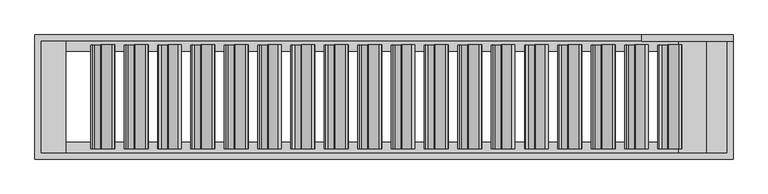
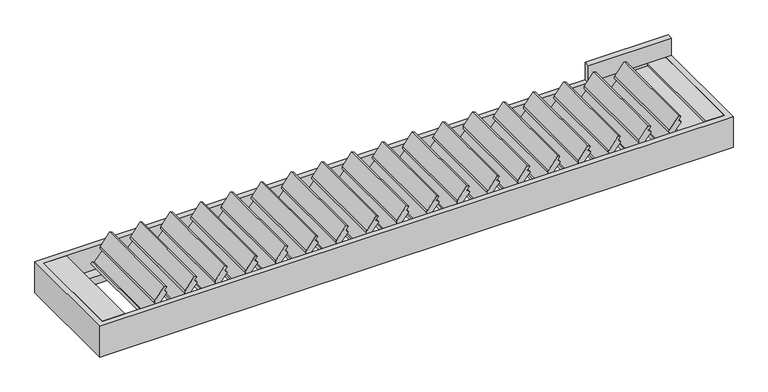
"""IFC4 building model written with IfcOpenShell, lengths in millimetres: proxy geometry, Renson_Aero_Patio covers : Aero - Single."""

from ifc_helpers import new_model, si_unit, point, frame, frame_2d, origin, origin_with_axes, place, context, project, spatial, polyline, circle_curve, trimmed, segment, composite_curve, outline, extrude, faceted_brep, source, transform, mapped, element, save


def generic_models_9f0a1203(model_context):
    return source(origin(), model_context, "Body", "SolidModel", [
        extrude(outline(composite_curve([segment(polyline([(38.6941425, 1704.2933937), (58.328832, 1684.6587041), (81.3082125, 1702.1326311), (91.2056128, 1684.9898308), (3.54674, 1618.332475)]), True, "CONTINUOUS"), segment(trimmed(circle_curve(frame_2d((-5.5326698, 1630.272505)), 15.0), [point((3.54674, 1618.332475))], [point((-15.174484, 1618.7818384))], False, "CARTESIAN"), True, "CONTINUOUS"), segment(polyline([(-15.174484, 1618.7818384), (-30.1324311, 1631.3330463), (-97.3419348, 1574.9375765), (-88.6707887, 1559.918711), (-100.8453082, 1550.6609913), (-120.7163908, 1570.532074), (38.6941425, 1704.2933937)]), True, "CONTINUOUS")], self_intersect=False)), frame((0.0, -335.0, 0.0), z_axis=(0.0, 1.0, 0.0), x_axis=(0.0, 0.0, 1.0)), (0.0, 0.0, 1.0), 670.0),
        extrude(outline(composite_curve([segment(polyline([(38.6941425, 1489.2832245), (58.328832, 1469.6485349), (81.3082125, 1487.1224619), (91.2056128, 1469.9796616), (3.54674, 1403.3223058)]), True, "CONTINUOUS"), segment(trimmed(circle_curve(frame_2d((-5.5326698, 1415.2623358)), 15.0), [point((3.54674, 1403.3223058))], [point((-15.174484, 1403.7716691))], False, "CARTESIAN"), True, "CONTINUOUS"), segment(polyline([(-15.174484, 1403.7716691), (-30.1324311, 1416.3228771), (-97.3419348, 1359.9274073), (-88.6707887, 1344.9085418), (-100.8453082, 1335.6508221), (-120.7163908, 1355.5219048), (38.6941425, 1489.2832245)]), True, "CONTINUOUS")], self_intersect=False)), frame((0.0, -335.0, 0.0), z_axis=(0.0, 1.0, 0.0), x_axis=(0.0, 0.0, 1.0)), (0.0, 0.0, 1.0), 670.0),
        extrude(outline(composite_curve([segment(polyline([(38.6941425, 1274.2730553), (58.328832, 1254.6383657), (81.3082125, 1272.1122927), (91.2056128, 1254.9694924), (3.54674, 1188.3121365)]), True, "CONTINUOUS"), segment(trimmed(circle_curve(frame_2d((-5.5326698, 1200.2521666)), 15.0), [point((3.54674, 1188.3121365))], [point((-15.174484, 1188.7614999))], False, "CARTESIAN"), True, "CONTINUOUS"), segment(polyline([(-15.174484, 1188.7614999), (-30.1324311, 1201.3127079), (-97.3419348, 1144.9172381), (-88.6707887, 1129.8983726), (-100.8453082, 1120.6406529), (-120.7163908, 1140.5117356), (38.6941425, 1274.2730553)]), True, "CONTINUOUS")], self_intersect=False)), frame((0.0, -335.0, 0.0), z_axis=(0.0, 1.0, 0.0), x_axis=(0.0, 0.0, 1.0)), (0.0, 0.0, 1.0), 670.0),
        extrude(outline(composite_curve([segment(polyline([(38.6941425, 1059.2628861), (58.328832, 1039.6281965), (81.3082125, 1057.1021235), (91.2056128, 1039.9593232), (3.54674, 973.3019673)]), True, "CONTINUOUS"), segment(trimmed(circle_curve(frame_2d((-5.5326698, 985.2419974)), 15.0), [point((3.54674, 973.3019673))], [point((-15.174484, 973.7513307))], False, "CARTESIAN"), True, "CONTINUOUS"), segment(polyline([(-15.174484, 973.7513307), (-30.1324311, 986.3025387), (-97.3419348, 929.9070689), (-88.6707887, 914.8882034), (-100.8453082, 905.6304837), (-120.7163908, 925.5015664), (38.6941425, 1059.2628861)]), True, "CONTINUOUS")], self_intersect=False)), frame((0.0, -335.0, 0.0), z_axis=(0.0, 1.0, 0.0), x_axis=(0.0, 0.0, 1.0)), (0.0, 0.0, 1.0), 670.0),
        extrude(outline(composite_curve([segment(polyline([(38.6941425, 844.2527169), (58.328832, 824.6180273), (81.3082125, 842.0919543), (91.2056128, 824.949154), (3.54674, 758.2917981)]), True, "CONTINUOUS"), segment(trimmed(circle_curve(frame_2d((-5.5326698, 770.2318282)), 15.0), [point((3.54674, 758.2917981))], [point((-15.174484, 758.7411615))], False, "CARTESIAN"), True, "CONTINUOUS"), segment(polyline([(-15.174484, 758.7411615), (-30.1324311, 771.2923694), (-97.3419348, 714.8968997), (-88.6707887, 699.8780342), (-100.8453082, 690.6203145), (-120.7163908, 710.4913972), (38.6941425, 844.2527169)]), True, "CONTINUOUS")], self_intersect=False)), frame((0.0, -335.0, 0.0), z_axis=(0.0, 1.0, 0.0), x_axis=(0.0, 0.0, 1.0)), (0.0, 0.0, 1.0), 670.0),
        extrude(outline(composite_curve([segment(polyline([(38.6941425, 629.2425476), (58.328832, 609.6078581), (81.3082125, 627.0817851), (91.2056128, 609.9389848), (3.54674, 543.2816289)]), True, "CONTINUOUS"), segment(trimmed(circle_curve(frame_2d((-5.5326698, 555.221659)), 15.0), [point((3.54674, 543.2816289))], [point((-15.174484, 543.7309923))], False, "CARTESIAN"), True, "CONTINUOUS"), segment(polyline([(-15.174484, 543.7309923), (-30.1324311, 556.2822002), (-97.3419348, 499.8867305), (-88.6707887, 484.867865), (-100.8453082, 475.6101453), (-120.7163908, 495.481228), (38.6941425, 629.2425476)]), True, "CONTINUOUS")], self_intersect=False)), frame((0.0, -335.0, 0.0), z_axis=(0.0, 1.0, 0.0), x_axis=(0.0, 0.0, 1.0)), (0.0, 0.0, 1.0), 670.0),
        extrude(outline(composite_curve([segment(polyline([(38.6941425, 414.2323784), (58.328832, 394.5976889), (81.3082125, 412.0716159), (91.2056128, 394.9288156), (3.54674, 328.2714597)]), True, "CONTINUOUS"), segment(trimmed(circle_curve(frame_2d((-5.5326698, 340.2114898)), 15.0), [point((3.54674, 328.2714597))], [point((-15.174484, 328.7208231))], False, "CARTESIAN"), True, "CONTINUOUS"), segment(polyline([(-15.174484, 328.7208231), (-30.1324311, 341.272031), (-97.3419348, 284.8765613), (-88.6707887, 269.8576958), (-100.8453082, 260.5999761), (-120.7163908, 280.4710587), (38.6941425, 414.2323784)]), True, "CONTINUOUS")], self_intersect=False)), frame((0.0, -335.0, 0.0), z_axis=(0.0, 1.0, 0.0), x_axis=(0.0, 0.0, 1.0)), (0.0, 0.0, 1.0), 670.0),
        extrude(outline(composite_curve([segment(polyline([(38.6941425, 199.2222092), (58.328832, 179.5875197), (81.3082125, 197.0614467), (91.2056128, 179.9186464), (3.54674, 113.2612905)]), True, "CONTINUOUS"), segment(trimmed(circle_curve(frame_2d((-5.5326698, 125.2013206)), 15.0), [point((3.54674, 113.2612905))], [point((-15.174484, 113.7106539))], False, "CARTESIAN"), True, "CONTINUOUS"), segment(polyline([(-15.174484, 113.7106539), (-30.1324311, 126.2618618), (-97.3419348, 69.8663921), (-88.6707887, 54.8475266), (-100.8453082, 45.5898069), (-120.7163908, 65.4608895), (38.6941425, 199.2222092)]), True, "CONTINUOUS")], self_intersect=False)), frame((0.0, -335.0, 0.0), z_axis=(0.0, 1.0, 0.0), x_axis=(0.0, 0.0, 1.0)), (0.0, 0.0, 1.0), 670.0),
        extrude(outline(composite_curve([segment(polyline([(38.6941425, -15.78796), (58.328832, -35.4226495), (81.3082125, -17.9487226), (91.2056128, -35.0915229), (3.54674, -101.7488787)]), True, "CONTINUOUS"), segment(trimmed(circle_curve(frame_2d((-5.5326698, -89.8088487)), 15.0), [point((3.54674, -101.7488787))], [point((-15.174484, -101.2995153))], False, "CARTESIAN"), True, "CONTINUOUS"), segment(polyline([(-15.174484, -101.2995153), (-30.1324311, -88.7483074), (-97.3419348, -145.1437771), (-88.6707887, -160.1626426), (-100.8453082, -169.4203623), (-120.7163908, -149.5492797), (38.6941425, -15.78796)]), True, "CONTINUOUS")], self_intersect=False)), frame((0.0, -335.0, 0.0), z_axis=(0.0, 1.0, 0.0), x_axis=(0.0, 0.0, 1.0)), (0.0, 0.0, 1.0), 670.0),
        extrude(outline(composite_curve([segment(polyline([(38.6941425, -230.7981292), (58.328832, -250.4328187), (81.3082125, -232.9588918), (91.2056128, -250.1016921), (3.54674, -316.7590479)]), True, "CONTINUOUS"), segment(trimmed(circle_curve(frame_2d((-5.5326698, -304.8190179)), 15.0), [point((3.54674, -316.7590479))], [point((-15.174484, -316.3096845))], False, "CARTESIAN"), True, "CONTINUOUS"), segment(polyline([(-15.174484, -316.3096845), (-30.1324311, -303.7584766), (-97.3419348, -360.1539463), (-88.6707887, -375.1728118), (-100.8453082, -384.4305315), (-120.7163908, -364.5594489), (38.6941425, -230.7981292)]), True, "CONTINUOUS")], self_intersect=False)), frame((0.0, -335.0, 0.0), z_axis=(0.0, 1.0, 0.0), x_axis=(0.0, 0.0, 1.0)), (0.0, 0.0, 1.0), 670.0),
        extrude(outline(composite_curve([segment(polyline([(38.6941425, -445.8082984), (58.328832, -465.4429879), (81.3082125, -447.969061), (91.2056128, -465.1118613), (3.54674, -531.7692171)]), True, "CONTINUOUS"), segment(trimmed(circle_curve(frame_2d((-5.5326698, -519.8291871)), 15.0), [point((3.54674, -531.7692171))], [point((-15.174484, -531.3198537))], False, "CARTESIAN"), True, "CONTINUOUS"), segment(polyline([(-15.174484, -531.3198537), (-30.1324311, -518.7686458), (-97.3419348, -575.1641155), (-88.6707887, -590.182981), (-100.8453082, -599.4407007), (-120.7163908, -579.5696181), (38.6941425, -445.8082984)]), True, "CONTINUOUS")], self_intersect=False)), frame((0.0, -335.0, 0.0), z_axis=(0.0, 1.0, 0.0), x_axis=(0.0, 0.0, 1.0)), (0.0, 0.0, 1.0), 670.0),
        extrude(outline(composite_curve([segment(polyline([(38.6941425, -660.8184676), (58.328832, -680.4531571), (81.3082125, -662.9792302), (91.2056128, -680.1220305), (3.54674, -746.7793863)]), True, "CONTINUOUS"), segment(trimmed(circle_curve(frame_2d((-5.5326698, -734.8393563)), 15.0), [point((3.54674, -746.7793863))], [point((-15.174484, -746.3300229))], False, "CARTESIAN"), True, "CONTINUOUS"), segment(polyline([(-15.174484, -746.3300229), (-30.1324311, -733.778815), (-97.3419348, -790.1742848), (-88.6707887, -805.1931502), (-100.8453082, -814.4508699), (-120.7163908, -794.5797873), (38.6941425, -660.8184676)]), True, "CONTINUOUS")], self_intersect=False)), frame((0.0, -335.0, 0.0), z_axis=(0.0, 1.0, 0.0), x_axis=(0.0, 0.0, 1.0)), (0.0, 0.0, 1.0), 670.0),
        extrude(outline(composite_curve([segment(polyline([(38.6941425, -875.8286368), (58.328832, -895.4633263), (81.3082125, -877.9893994), (91.2056128, -895.1321997), (3.54674, -961.7895555)]), True, "CONTINUOUS"), segment(trimmed(circle_curve(frame_2d((-5.5326698, -949.8495255)), 15.0), [point((3.54674, -961.7895555))], [point((-15.174484, -961.3401921))], False, "CARTESIAN"), True, "CONTINUOUS"), segment(polyline([(-15.174484, -961.3401921), (-30.1324311, -948.7889842), (-97.3419348, -1005.184454), (-88.6707887, -1020.2033194), (-100.8453082, -1029.4610391), (-120.7163908, -1009.5899565), (38.6941425, -875.8286368)]), True, "CONTINUOUS")], self_intersect=False)), frame((0.0, -335.0, 0.0), z_axis=(0.0, 1.0, 0.0), x_axis=(0.0, 0.0, 1.0)), (0.0, 0.0, 1.0), 670.0),
        extrude(outline(composite_curve([segment(polyline([(38.6941425, -1090.838806), (58.328832, -1110.4734955), (81.3082125, -1092.9995686), (91.2056128, -1110.1423689), (3.54674, -1176.7997247)]), True, "CONTINUOUS"), segment(trimmed(circle_curve(frame_2d((-5.5326698, -1164.8596947)), 15.0), [point((3.54674, -1176.7997247))], [point((-15.174484, -1176.3503613))], False, "CARTESIAN"), True, "CONTINUOUS"), segment(polyline([(-15.174484, -1176.3503613), (-30.1324311, -1163.7991534), (-97.3419348, -1220.1946232), (-88.6707887, -1235.2134887), (-100.8453082, -1244.4712084), (-120.7163908, -1224.6001257), (38.6941425, -1090.838806)]), True, "CONTINUOUS")], self_intersect=False)), frame((0.0, -335.0, 0.0), z_axis=(0.0, 1.0, 0.0), x_axis=(0.0, 0.0, 1.0)), (0.0, 0.0, 1.0), 670.0),
        extrude(outline(composite_curve([segment(polyline([(38.6941425, -1305.8489752), (58.328832, -1325.4836647), (81.3082125, -1308.0097378), (91.2056128, -1325.1525381), (3.54674, -1391.8098939)]), True, "CONTINUOUS"), segment(trimmed(circle_curve(frame_2d((-5.5326698, -1379.8698639)), 15.0), [point((3.54674, -1391.8098939))], [point((-15.174484, -1391.3605305))], False, "CARTESIAN"), True, "CONTINUOUS"), segment(polyline([(-15.174484, -1391.3605305), (-30.1324311, -1378.8093226), (-97.3419348, -1435.2047924), (-88.6707887, -1450.2236579), (-100.8453082, -1459.4813776), (-120.7163908, -1439.6102949), (38.6941425, -1305.8489752)]), True, "CONTINUOUS")], self_intersect=False)), frame((0.0, -335.0, 0.0), z_axis=(0.0, 1.0, 0.0), x_axis=(0.0, 0.0, 1.0)), (0.0, 0.0, 1.0), 670.0),
        extrude(outline(composite_curve([segment(polyline([(38.6941425, -1520.8591444), (58.328832, -1540.493834), (81.3082125, -1523.019907), (91.2056128, -1540.1627073), (3.54674, -1606.8200631)]), True, "CONTINUOUS"), segment(trimmed(circle_curve(frame_2d((-5.5326698, -1594.8800331)), 15.0), [point((3.54674, -1606.8200631))], [point((-15.174484, -1606.3706997))], False, "CARTESIAN"), True, "CONTINUOUS"), segment(polyline([(-15.174484, -1606.3706997), (-30.1324311, -1593.8194918), (-97.3419348, -1650.2149616), (-88.6707887, -1665.2338271), (-100.8453082, -1674.4915468), (-120.7163908, -1654.6204641), (38.6941425, -1520.8591444)]), True, "CONTINUOUS")], self_intersect=False)), frame((0.0, -335.0, 0.0), z_axis=(0.0, 1.0, 0.0), x_axis=(0.0, 0.0, 1.0)), (0.0, 0.0, 1.0), 670.0),
        extrude(outline(composite_curve([segment(polyline([(38.6941425, 1919.3035629), (58.328832, 1899.6688733), (81.3082125, 1917.1428003), (91.2056128, 1900.0), (3.54674, 1833.3426442)]), True, "CONTINUOUS"), segment(trimmed(circle_curve(frame_2d((-5.5326698, 1845.2826742)), 15.0), [point((3.54674, 1833.3426442))], [point((-15.174484, 1833.7920076))], False, "CARTESIAN"), True, "CONTINUOUS"), segment(polyline([(-15.174484, 1833.7920076), (-30.1324311, 1846.3432155), (-97.3419348, 1789.9477457), (-88.6707887, 1774.9288802), (-100.8453082, 1765.6711605), (-120.7163908, 1785.5422432), (38.6941425, 1919.3035629)]), True, "CONTINUOUS")], self_intersect=False)), frame((0.0, -335.0, 0.0), z_axis=(0.0, 1.0, 0.0), x_axis=(0.0, 0.0, 1.0)), (0.0, 0.0, 1.0), 670.0),
        extrude(outline(composite_curve([segment(polyline([(38.6941425, -1735.8693136), (58.328832, -1755.5040032), (81.3082125, -1738.0300762), (91.2056128, -1755.1728765), (3.54674, -1821.8302323)]), True, "CONTINUOUS"), segment(trimmed(circle_curve(frame_2d((-5.5326698, -1809.8902023)), 15.0), [point((3.54674, -1821.8302323))], [point((-15.174484, -1821.3808689))], False, "CARTESIAN"), True, "CONTINUOUS"), segment(polyline([(-15.174484, -1821.3808689), (-30.1324311, -1808.829661), (-97.3419348, -1865.2251308), (-88.6707887, -1880.2439963), (-100.8453082, -1889.501716), (-120.7163908, -1869.6306333), (38.6941425, -1735.8693136)]), True, "CONTINUOUS")], self_intersect=False)), frame((0.0, -335.0, 0.0), z_axis=(0.0, 1.0, 0.0), x_axis=(0.0, 0.0, 1.0)), (0.0, 0.0, 1.0), 670.0),
        extrude(outline(polyline([(-63.35, 2210.0), (0.0, 2210.0), (0.0, 2080.5), (-20.0, 2080.5), (-20.0, 1900.0), (-44.0, 1900.0), (-44.0, 2050.0), (-63.35, 2050.0), (-63.35, 2210.0)])), frame((0.0, -360.0, 0.0), z_axis=(0.0, 1.0, 0.0), x_axis=(0.0, 0.0, 1.0)), (0.0, 0.0, 1.0), 720.0),
        extrude(outline(polyline([(0.0, -2050.0), (0.0, -2210.0), (-44.0, -2210.0), (-44.0, -2077.3193336), (-10.8283397, -2074.4171894), (-9.655498, -2050.0), (0.0, -2050.0)])), frame((0.0, -360.0, 0.0), z_axis=(0.0, 1.0, 0.0), x_axis=(0.0, 0.0, 1.0)), (0.0, 0.0, 1.0), 720.0),
        extrude(outline(polyline([(2250.0, 400.0), (2250.0, 360.0), (1660.0, 360.0), (1660.0, 400.0), (2250.0, 400.0)])), origin_with_axes(), (0.0, 0.0, 1.0), 130.0),
        faceted_brep([(-2210.0, 360.0, 0.0), (-2210.0, 360.0, -173.0), (2210.0, 360.0, -173.0), (2210.0, 360.0, 0.0), (-2250.0, 400.0, -230.0), (-2250.0, 400.0, 0.0), (2250.0, 400.0, 0.0), (2250.0, 400.0, -230.0), (-2140.0, 290.0, -173.0), (-2140.0, 290.0, -230.0), (2140.0, 290.0, -230.0), (2140.0, 290.0, -173.0), (2210.0, -360.0, -173.0), (2210.0, -360.0, 0.0), (2250.0, -400.0, 0.0), (2250.0, -400.0, -230.0), (2140.0, -290.0, -230.0), (2140.0, -290.0, -173.0), (-2210.0, -360.0, -173.0), (-2210.0, -360.0, 0.0), (-2250.0, -400.0, 0.0), (-2250.0, -400.0, -230.0), (-2140.0, -290.0, -230.0), (-2140.0, -290.0, -173.0)], [[[0, 1, 2, 3]], [[4, 5, 6, 7]], [[8, 9, 10, 11]], [[3, 2, 12, 13]], [[7, 6, 14, 15]], [[11, 10, 16, 17]], [[13, 12, 18, 19]], [[15, 14, 20, 21]], [[17, 16, 22, 23]], [[19, 18, 1, 0]], [[5, 20, 14, 6], [3, 13, 19, 0]], [[21, 20, 5, 4]], [[7, 15, 21, 4], [9, 22, 16, 10]], [[23, 22, 9, 8]], [[1, 18, 12, 2], [11, 17, 23, 8]]]),
    ])


if __name__ == "__main__":
    model = new_model("IFC4")
    model_context = context("Model", 3, world=origin())
    ifc_project = project(units=[si_unit("LENGTHUNIT", "METRE", prefix="MILLI")], contexts=[model_context])
    site = spatial("IfcSite", under=ifc_project)
    building = spatial("IfcBuilding", under=site)
    placement = place(None, origin())
    generic_models_shape = generic_models_9f0a1203(model_context)
    element("IfcBuildingElementProxy", 1, Name="Renson_Aero_Patio covers : Aero - Single", ObjectType="Renson_Aero_Patio covers : Aero - Single", at=placement, inside=building, context=model_context, shape_type="MappedRepresentation", body=[
        mapped(generic_models_shape, transform((0.0, 0.0, 0.0), x_axis=(1.0, 0.0, 0.0), y_axis=(0.0, 1.0, 0.0), z_axis=(0.0, 0.0, 1.0))),
    ])
    save(model, "model.ifc")
